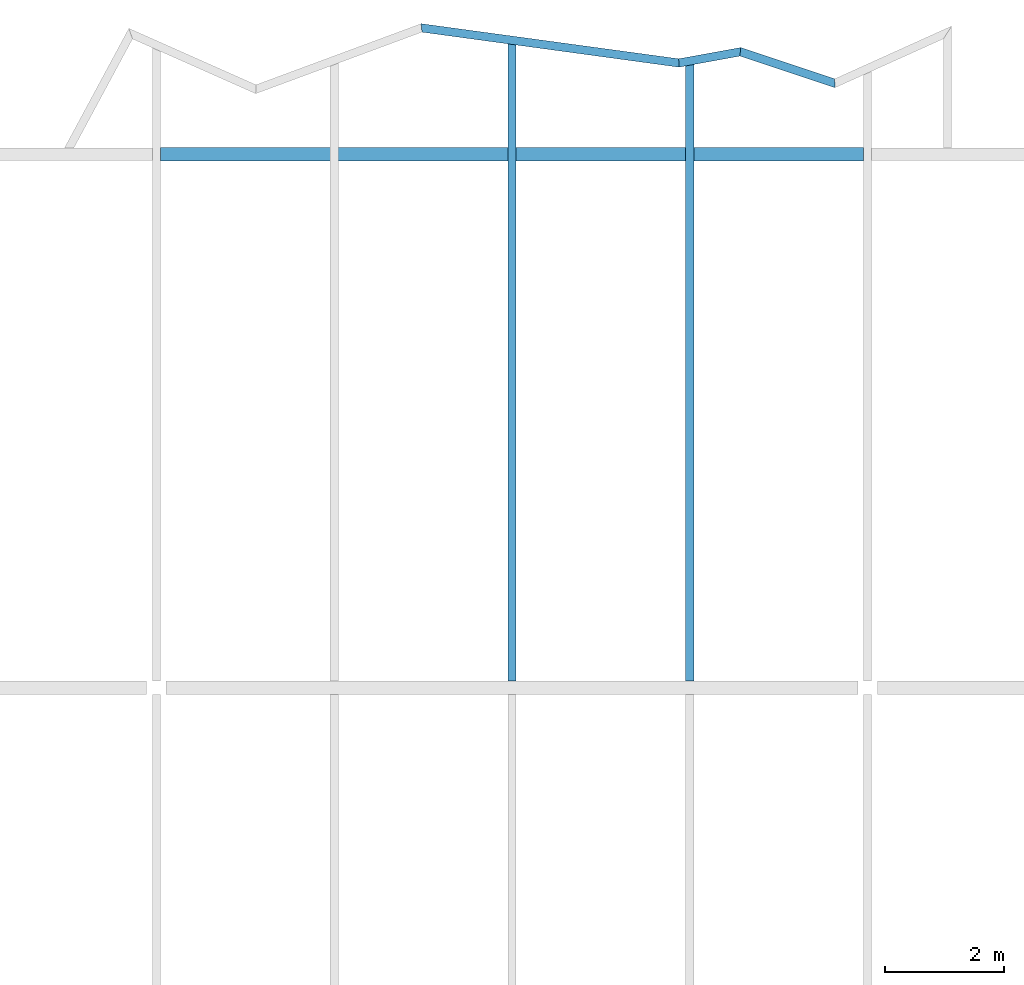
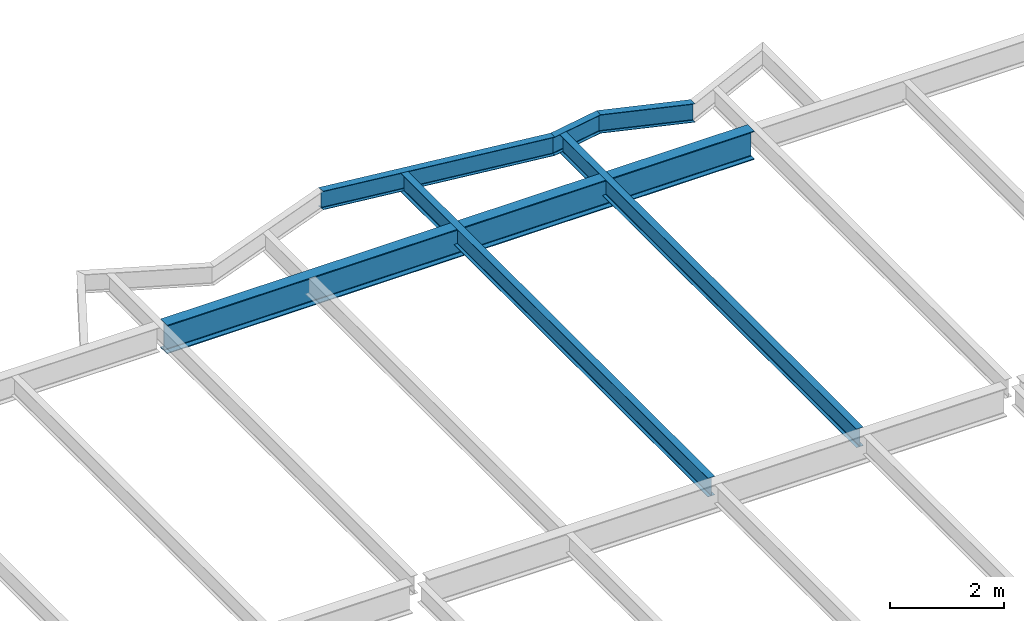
# One storey, part 13 of 26: 6 beams.
"""IFC2X3 building model written with IfcOpenShell, lengths in millimetres."""

import ifcopenshell
import ifcopenshell.guid

model = None  # the IFC model being written
_history = None  # IfcOwnerHistory: only IFC2X3 demands one
_inside = {}  # id of a spatial element -> (the spatial element, [elements in it])
_under = {}  # id of a project, library or spatial element -> (it, [spatial elements below it])
_declared = {}  # id of a project -> (the project, [libraries it declares])
_typed = {}  # id of a type object -> (the type object, [elements of that type])
_made_of = {}  # id of a material, layer set ... -> (it, [elements and type objects made of it])


def new_model(schema):
    """Start an empty IFC model of exactly this schema.

    Asked for "IFC4X3", IfcOpenShell would pick the latest addendum, in which some entities
    have other attributes; the version numbers below select the first issue.
    IFC2X3 requires an IfcOwnerHistory on every rooted entity: one is made here for all.
    """
    global model, _history
    if schema == "IFC4X3":
        model = ifcopenshell.file(schema_version=(4, 3, 0, 0))
    else:
        model = ifcopenshell.file(schema=schema)
    _inside.clear()
    _under.clear()
    _declared.clear()
    _typed.clear()
    _made_of.clear()
    _history = None
    if model.schema == "IFC2X3":
        org = make("IfcOrganization", Name="unknown")
        user = make(
            "IfcPersonAndOrganization",
            ThePerson=make("IfcPerson", FamilyName="unknown"),
            TheOrganization=org,
        )
        app = make(
            "IfcApplication",
            ApplicationDeveloper=org,
            Version="unknown",
            ApplicationFullName="unknown",
            ApplicationIdentifier="unknown",
        )
        _history = make(
            "IfcOwnerHistory",
            OwningUser=user,
            OwningApplication=app,
            ChangeAction="ADDED",
            CreationDate=0,
        )
    return model


def make(cls, **values):
    """One entity of the class cls with the attributes given. An attribute that is None is left unset."""
    return model.create_entity(
        cls, **{name: value for name, value in values.items() if value is not None}
    )


def rooted(cls, **values):
    """An entity with a GlobalId (a new one), such as an element, a storey or a relation."""
    return make(cls, GlobalId=ifcopenshell.guid.new(), OwnerHistory=_history, **values)


def si_unit(unit_type, name, prefix=None):
    """IfcSIUnit, for example si_unit("LENGTHUNIT", "METRE", prefix="MILLI")."""
    return make("IfcSIUnit", UnitType=unit_type, Prefix=prefix, Name=name)


def assignment(units):
    """IfcUnitAssignment: the units of a project."""
    return None if units is None else make("IfcUnitAssignment", Units=units)


def point(xyz):
    """IfcCartesianPoint."""
    return None if xyz is None else make("IfcCartesianPoint", Coordinates=xyz)


def direction(xyz):
    """IfcDirection."""
    return None if xyz is None else make("IfcDirection", DirectionRatios=xyz)


def frame(location, z_axis=None, x_axis=None):
    """IfcAxis2Placement3D, a coordinate frame: its origin and axes. An axis left out is left unset."""
    return make(
        "IfcAxis2Placement3D",
        Location=point(location),
        Axis=direction(z_axis),
        RefDirection=direction(x_axis),
    )


def origin():
    """The frame at (0, 0, 0) with its axes left unset."""
    return frame((0.0, 0.0, 0.0))


def place(relative_to, where):
    """IfcLocalPlacement: puts the frame where relative to a parent placement (None: the world)."""
    return make(
        "IfcLocalPlacement", PlacementRelTo=relative_to, RelativePlacement=where
    )


def context(
    kind, dimensions, precision=None, world=None, true_north=None, identifier=None
):
    """IfcGeometricRepresentationContext, for example the 3D "Model" context."""
    return make(
        "IfcGeometricRepresentationContext",
        ContextIdentifier=identifier,
        ContextType=kind,
        CoordinateSpaceDimension=dimensions,
        Precision=precision,
        WorldCoordinateSystem=world,
        TrueNorth=true_north,
    )


def project(units=None, contexts=None):
    """IfcProject with its units and contexts."""
    return rooted(
        "IfcProject",
        Name="project",
        RepresentationContexts=contexts,
        UnitsInContext=assignment(units),
    )


def spatial(cls, under=None, at=None, **own):
    """A site, building, storey or space (cls), placed at a placement, below another one or the project."""
    s = rooted(cls, ObjectPlacement=at, **own)
    if under is not None:
        _under.setdefault(under.id(), (under, []))[1].append(s)
    return s


def faces_of(points, faces, orient=None, outer=None):
    """IfcFace entities. A face is a list of loops; a loop is a list of indices into points, from 0.

    orient and outer hold one flag for each loop. By default every Orientation is true, the
    first loop of a face is its IfcFaceOuterBound and the others are IfcFaceBound.
    """
    made = []
    for i, loops in enumerate(faces):
        bounds = []
        for j, loop in enumerate(loops):
            is_outer = j == 0 if outer is None else outer[i][j]
            bounds.append(
                make(
                    "IfcFaceOuterBound" if is_outer else "IfcFaceBound",
                    Bound=make("IfcPolyLoop", Polygon=[points[k] for k in loop]),
                    Orientation=True if orient is None else orient[i][j],
                )
            )
        made.append(make("IfcFace", Bounds=bounds))
    return made


def faceted_brep(points, faces, orient=None, outer=None, voids=None):
    """IfcFacetedBrep: a solid bounded by flat faces; with voids (closed shells), ...WithVoids."""
    shared = [point(p) for p in points]
    hull = make("IfcClosedShell", CfsFaces=faces_of(shared, faces, orient, outer))
    if voids is None:
        return make("IfcFacetedBrep", Outer=hull)
    return make(
        "IfcFacetedBrepWithVoids",
        Outer=hull,
        Voids=[
            make(cls, CfsFaces=faces_of(shared, fs, o, b)) for cls, fs, o, b in voids
        ],
    )


def shape(context_of_items, identifier, shape_type, items):
    """IfcShapeRepresentation: the items that make up one representation, for example the "Body"."""
    return make(
        "IfcShapeRepresentation",
        ContextOfItems=context_of_items,
        RepresentationIdentifier=identifier,
        RepresentationType=shape_type,
        Items=items,
    )


def material(Name=None, Category=None):
    """IfcMaterial."""
    return make("IfcMaterial", Name=Name, Category=Category)


def made_of(thing, what):
    """Note that an element or type object is made of a material, layer set ...; save() writes the relation."""
    if what is not None:
        _made_of.setdefault(what.id(), (what, []))[1].append(thing)
    return thing


def element(
    cls,
    number,
    at=None,
    inside=None,
    cuts=None,
    type_object=None,
    material=None,
    context=None,
    identifier="Body",
    shape_type=None,
    held_by="IfcProductDefinitionShape",
    body=None,
    shapes=None,
    **own,
):
    """One element of the class cls, such as IfcWall. Its Tag is "e" and its number.

    at: its placement. inside: the storey or other place that contains it. cuts: it is an
    opening in that element (IfcRelVoidsElement). A single representation is given by context,
    identifier, shape_type and body (its items); several are given by shapes. held_by: the class
    of the entity that holds the representations. save() writes the other relations.
    """
    e = rooted(cls, Tag="e%d" % number, ObjectPlacement=at, **own)
    if body is not None:
        shapes = [shape(context, identifier, shape_type, body)]
    if shapes is not None:
        e.Representation = make(held_by, Representations=shapes)
    if inside is not None:
        _inside.setdefault(inside.id(), (inside, []))[1].append(e)
    if cuts is not None:
        rooted(
            "IfcRelVoidsElement", RelatingBuildingElement=cuts, RelatedOpeningElement=e
        )
    if type_object is not None:
        _typed.setdefault(type_object.id(), (type_object, []))[1].append(e)
    return made_of(e, material)


def aggregate(whole, parts):
    """IfcRelAggregates: a whole, such as a stair, and the parts it consists of."""
    return rooted("IfcRelAggregates", RelatingObject=whole, RelatedObjects=parts)


def save(model, path):
    """Write the relations noted so far, then the file.

    IfcRelAggregates (storeys below a building ...), IfcRelContainedInSpatialStructure (elements
    in a storey), IfcRelDefinesByType, IfcRelAssociatesMaterial and IfcRelDeclares: one each for
    every whole, place, type object, material and project.
    """
    for whole, parts in _under.values():
        aggregate(whole, parts)
    for where, things in _inside.values():
        rooted(
            "IfcRelContainedInSpatialStructure",
            RelatedElements=things,
            RelatingStructure=where,
        )
    for kind, things in _typed.values():
        rooted("IfcRelDefinesByType", RelatedObjects=things, RelatingType=kind)
    for what, things in _made_of.values():
        rooted("IfcRelAssociatesMaterial", RelatedObjects=things, RelatingMaterial=what)
    for by, libraries in _declared.values():
        rooted("IfcRelDeclares", RelatingContext=by, RelatedDefinitions=libraries)
    model.write(path)


model = new_model("IFC2X3")

# Units and contexts
context_of_model = context(None, 3, precision=1e-05, world=origin())
ifc_project = project(units=[si_unit("LENGTHUNIT", "METRE", prefix="MILLI")], contexts=[context_of_model])

# Building, storey
building = spatial("IfcBuilding", under=ifc_project, Name="Building", CompositionType="ELEMENT")
storey = spatial("IfcBuildingStorey", under=building, Name="FL4-FRM", CompositionType="ELEMENT")

# Beams
ifc_material_1 = material(Name="A992")
beam_1_placement = place(None, origin())
element("IfcBeam", 1, at=beam_1_placement, inside=storey, material=ifc_material_1, Name="Column355", context=context_of_model, shape_type="Brep", body=[
    faceted_brep([(-23930.0, 35885.5, 12761.0), (-23930.0, 36114.5, 12761.0), (-12070.0, 36114.5, 12761.0), (-12070.0, 35885.5, 12761.0), (-23930.0, 36114.5, 12780.6), (-12070.0, 36114.5, 12780.6), (-23930.0, 36018.6, 12780.6), (-12070.0, 36018.6, 12780.6), (-23930.0, 36015.4, 12781.0), (-12070.0, 36015.4, 12781.0), (-23930.0, 36012.3, 12782.3), (-12070.0, 36012.3, 12782.3), (-23930.0, 36009.7, 12784.3), (-12070.0, 36009.7, 12784.3), (-23930.0, 36007.7, 12787.0), (-12070.0, 36007.7, 12787.0), (-23930.0, 36006.4, 12790.0), (-12070.0, 36006.4, 12790.0), (-23930.0, 36005.9, 12793.3), (-12070.0, 36005.9, 12793.3), (-23930.0, 36005.9, 13340.7), (-12070.0, 36005.9, 13340.7), (-23930.0, 36006.4, 13344.0), (-12070.0, 36006.4, 13344.0), (-23930.0, 36007.7, 13347.0), (-12070.0, 36007.7, 13347.0), (-23930.0, 36009.7, 13349.7), (-12070.0, 36009.7, 13349.7), (-23930.0, 36012.3, 13351.7), (-12070.0, 36012.3, 13351.7), (-23930.0, 36015.4, 13353.0), (-12070.0, 36015.4, 13353.0), (-23930.0, 36018.6, 13353.4), (-12070.0, 36018.6, 13353.4), (-23930.0, 36114.5, 13353.4), (-12070.0, 36114.5, 13353.4), (-23930.0, 36114.5, 13373.0), (-12070.0, 36114.5, 13373.0), (-23930.0, 35885.5, 13373.0), (-12070.0, 35885.5, 13373.0), (-23930.0, 35885.5, 13353.4), (-12070.0, 35885.5, 13353.4), (-23930.0, 35981.4, 13353.4), (-12070.0, 35981.4, 13353.4), (-23930.0, 35984.6, 13353.0), (-12070.0, 35984.6, 13353.0), (-23930.0, 35987.7, 13351.7), (-12070.0, 35987.7, 13351.7), (-23930.0, 35990.3, 13349.7), (-12070.0, 35990.3, 13349.7), (-23930.0, 35992.3, 13347.0), (-12070.0, 35992.3, 13347.0), (-23930.0, 35993.6, 13344.0), (-12070.0, 35993.6, 13344.0), (-23930.0, 35994.1, 13340.7), (-12070.0, 35994.1, 13340.7), (-23930.0, 35994.1, 12793.3), (-12070.0, 35994.1, 12793.3), (-23930.0, 35993.6, 12790.0), (-12070.0, 35993.6, 12790.0), (-23930.0, 35992.3, 12787.0), (-12070.0, 35992.3, 12787.0), (-23930.0, 35990.3, 12784.3), (-12070.0, 35990.3, 12784.3), (-23930.0, 35987.7, 12782.3), (-12070.0, 35987.7, 12782.3), (-23930.0, 35984.6, 12781.0), (-12070.0, 35984.6, 12781.0), (-23930.0, 35981.4, 12780.6), (-12070.0, 35981.4, 12780.6), (-23930.0, 35885.5, 12780.6), (-12070.0, 35885.5, 12780.6)], [[[0, 1, 2, 3]], [[1, 4, 5, 2]], [[4, 6, 7, 5]], [[6, 8, 9, 7]], [[8, 10, 11, 9]], [[10, 12, 13, 11]], [[12, 14, 15, 13]], [[14, 16, 17, 15]], [[16, 18, 19, 17]], [[18, 20, 21, 19]], [[20, 22, 23, 21]], [[22, 24, 25, 23]], [[24, 26, 27, 25]], [[26, 28, 29, 27]], [[28, 30, 31, 29]], [[30, 32, 33, 31]], [[32, 34, 35, 33]], [[34, 36, 37, 35]], [[36, 38, 39, 37]], [[38, 40, 41, 39]], [[40, 42, 43, 41]], [[42, 44, 45, 43]], [[44, 46, 47, 45]], [[46, 48, 49, 47]], [[48, 50, 51, 49]], [[50, 52, 53, 51]], [[52, 54, 55, 53]], [[54, 56, 57, 55]], [[56, 58, 59, 57]], [[58, 60, 61, 59]], [[60, 62, 63, 61]], [[62, 64, 65, 63]], [[64, 66, 67, 65]], [[66, 68, 69, 67]], [[68, 70, 71, 69]], [[70, 0, 3, 71]], [[0, 70, 68, 66, 64, 62, 60, 58, 56, 54, 52, 50, 48, 46, 44, 42, 40, 38, 36, 34, 32, 30, 28, 26, 24, 22, 20, 18, 16, 14, 12, 10, 8, 6, 4, 1]], [[3, 2, 5, 7, 9, 11, 13, 15, 17, 19, 21, 23, 25, 27, 29, 31, 33, 35, 37, 39, 41, 43, 45, 47, 49, 51, 53, 55, 57, 59, 61, 63, 65, 67, 69, 71]]]),
])
ifc_material_2 = material(Name="A992")
beam_2_placement = place(None, origin())
element("IfcBeam", 2, at=beam_2_placement, inside=storey, material=ifc_material_2, Name="B982", context=context_of_model, shape_type="Brep", body=[
    faceted_brep([(-15070.0, 37491.8, 12974.0), (-14930.0, 37517.3, 12974.0), (-14930.0, 27114.5, 12974.0), (-15070.0, 27114.5, 12974.0), (-14930.0, 37517.3, 12982.8), (-14930.0, 27114.5, 12982.8), (-14986.6, 37507.0, 12982.8), (-14986.6, 27114.5, 12982.8), (-14988.1, 37506.7, 12982.9), (-14988.1, 27114.5, 12982.9), (-14989.5, 37506.5, 12983.2), (-14989.5, 27114.5, 12983.2), (-14990.8, 37506.2, 12983.7), (-14990.8, 27114.5, 12983.7), (-14992.1, 37506.0, 12984.4), (-14992.1, 27114.5, 12984.4), (-14993.3, 37505.8, 12985.3), (-14993.3, 27114.5, 12985.3), (-14994.3, 37505.6, 12986.3), (-14994.3, 27114.5, 12986.3), (-14995.2, 37505.4, 12987.5), (-14995.2, 27114.5, 12987.5), (-14995.9, 37505.3, 12988.8), (-14995.9, 27114.5, 12988.8), (-14996.4, 37505.2, 12990.1), (-14996.4, 27114.5, 12990.1), (-14996.7, 37505.2, 12991.5), (-14996.7, 27114.5, 12991.5), (-14996.8, 37505.1, 12993.0), (-14996.8, 27114.5, 12993.0), (-14996.8, 37505.1, 13354.0), (-14996.8, 27114.5, 13354.0), (-14996.7, 37505.2, 13355.5), (-14996.7, 27114.5, 13355.5), (-14996.4, 37505.2, 13356.9), (-14996.4, 27114.5, 13356.9), (-14995.9, 37505.3, 13358.2), (-14995.9, 27114.5, 13358.2), (-14995.2, 37505.4, 13359.5), (-14995.2, 27114.5, 13359.5), (-14994.3, 37505.6, 13360.7), (-14994.3, 27114.5, 13360.7), (-14993.3, 37505.8, 13361.7), (-14993.3, 27114.5, 13361.7), (-14992.1, 37506.0, 13362.6), (-14992.1, 27114.5, 13362.6), (-14990.8, 37506.2, 13363.3), (-14990.8, 27114.5, 13363.3), (-14989.5, 37506.5, 13363.8), (-14989.5, 27114.5, 13363.8), (-14988.1, 37506.7, 13364.1), (-14988.1, 27114.5, 13364.1), (-14986.6, 37507.0, 13364.2), (-14986.6, 27114.5, 13364.2), (-14930.0, 37517.3, 13364.2), (-14930.0, 27114.5, 13364.2), (-14930.0, 37517.3, 13373.0), (-14930.0, 27114.5, 13373.0), (-15070.0, 37491.8, 13373.0), (-15070.0, 27114.5, 13373.0), (-15070.0, 37491.8, 13364.2), (-15070.0, 27114.5, 13364.2), (-15013.4, 37502.1, 13364.2), (-15013.4, 27114.5, 13364.2), (-15011.9, 37502.4, 13364.1), (-15011.9, 27114.5, 13364.1), (-15010.5, 37502.6, 13363.8), (-15010.5, 27114.5, 13363.8), (-15009.2, 37502.9, 13363.3), (-15009.2, 27114.5, 13363.3), (-15007.9, 37503.1, 13362.6), (-15007.9, 27114.5, 13362.6), (-15006.7, 37503.3, 13361.7), (-15006.7, 27114.5, 13361.7), (-15005.7, 37503.5, 13360.7), (-15005.7, 27114.5, 13360.7), (-15004.8, 37503.7, 13359.5), (-15004.8, 27114.5, 13359.5), (-15004.1, 37503.8, 13358.2), (-15004.1, 27114.5, 13358.2), (-15003.6, 37503.9, 13356.9), (-15003.6, 27114.5, 13356.9), (-15003.3, 37504.0, 13355.5), (-15003.3, 27114.5, 13355.5), (-15003.2, 37504.0, 13354.0), (-15003.2, 27114.5, 13354.0), (-15003.2, 37504.0, 12993.0), (-15003.2, 27114.5, 12993.0), (-15003.3, 37504.0, 12991.5), (-15003.3, 27114.5, 12991.5), (-15003.6, 37503.9, 12990.1), (-15003.6, 27114.5, 12990.1), (-15004.1, 37503.8, 12988.8), (-15004.1, 27114.5, 12988.8), (-15004.8, 37503.7, 12987.5), (-15004.8, 27114.5, 12987.5), (-15005.7, 37503.5, 12986.3), (-15005.7, 27114.5, 12986.3), (-15006.7, 37503.3, 12985.3), (-15006.7, 27114.5, 12985.3), (-15007.9, 37503.1, 12984.4), (-15007.9, 27114.5, 12984.4), (-15009.2, 37502.9, 12983.7), (-15009.2, 27114.5, 12983.7), (-15010.5, 37502.6, 12983.2), (-15010.5, 27114.5, 12983.2), (-15011.9, 37502.4, 12982.9), (-15011.9, 27114.5, 12982.9), (-15013.4, 37502.1, 12982.8), (-15013.4, 27114.5, 12982.8), (-15070.0, 37491.8, 12982.8), (-15070.0, 27114.5, 12982.8)], [[[0, 1, 2, 3]], [[1, 4, 5, 2]], [[4, 6, 7, 5]], [[6, 8, 9, 7]], [[8, 10, 11, 9]], [[10, 12, 13, 11]], [[12, 14, 15, 13]], [[14, 16, 17, 15]], [[16, 18, 19, 17]], [[18, 20, 21, 19]], [[20, 22, 23, 21]], [[22, 24, 25, 23]], [[24, 26, 27, 25]], [[26, 28, 29, 27]], [[28, 30, 31, 29]], [[30, 32, 33, 31]], [[32, 34, 35, 33]], [[34, 36, 37, 35]], [[36, 38, 39, 37]], [[38, 40, 41, 39]], [[40, 42, 43, 41]], [[42, 44, 45, 43]], [[44, 46, 47, 45]], [[46, 48, 49, 47]], [[48, 50, 51, 49]], [[50, 52, 53, 51]], [[52, 54, 55, 53]], [[54, 56, 57, 55]], [[56, 58, 59, 57]], [[58, 60, 61, 59]], [[60, 62, 63, 61]], [[62, 64, 65, 63]], [[64, 66, 67, 65]], [[66, 68, 69, 67]], [[68, 70, 71, 69]], [[70, 72, 73, 71]], [[72, 74, 75, 73]], [[74, 76, 77, 75]], [[76, 78, 79, 77]], [[78, 80, 81, 79]], [[80, 82, 83, 81]], [[82, 84, 85, 83]], [[84, 86, 87, 85]], [[86, 88, 89, 87]], [[88, 90, 91, 89]], [[90, 92, 93, 91]], [[92, 94, 95, 93]], [[94, 96, 97, 95]], [[96, 98, 99, 97]], [[98, 100, 101, 99]], [[100, 102, 103, 101]], [[102, 104, 105, 103]], [[104, 106, 107, 105]], [[106, 108, 109, 107]], [[108, 110, 111, 109]], [[110, 0, 3, 111]], [[0, 110, 108, 106, 104, 102, 100, 98, 96, 94, 92, 90, 88, 86, 84, 82, 80, 78, 76, 74, 72, 70, 68, 66, 64, 62, 60, 58, 56, 54, 52, 50, 48, 46, 44, 42, 40, 38, 36, 34, 32, 30, 28, 26, 24, 22, 20, 18, 16, 14, 12, 10, 8, 6, 4, 1]], [[3, 2, 5, 7, 9, 11, 13, 15, 17, 19, 21, 23, 25, 27, 29, 31, 33, 35, 37, 39, 41, 43, 45, 47, 49, 51, 53, 55, 57, 59, 61, 63, 65, 67, 69, 71, 73, 75, 77, 79, 81, 83, 85, 87, 89, 91, 93, 95, 97, 99, 101, 103, 105, 107, 109, 111]]]),
])
ifc_material_3 = material(Name="A992")
beam_3_placement = place(None, origin())
element("IfcBeam", 3, at=beam_3_placement, inside=storey, material=ifc_material_3, Name="B983", context=context_of_model, shape_type="Brep", body=[
    faceted_brep([(-14152.7, 37658.6, 12974.0), (-14142.4, 37802.8, 12974.0), (-12556.6, 37274.1, 12974.0), (-12548.9, 37124.0, 12974.0), (-14142.4, 37802.8, 12982.8), (-12556.6, 37274.1, 12982.8), (-14146.6, 37744.5, 12982.8), (-12553.5, 37213.4, 12982.8), (-14146.7, 37743.0, 12982.9), (-12553.4, 37211.9, 12982.9), (-14146.8, 37741.5, 12983.2), (-12553.3, 37210.4, 12983.2), (-14146.9, 37740.1, 12983.7), (-12553.2, 37208.9, 12983.7), (-14147.0, 37738.8, 12984.4), (-12553.1, 37207.5, 12984.4), (-14147.1, 37737.6, 12985.3), (-12553.1, 37206.3, 12985.3), (-14147.1, 37736.6, 12986.3), (-12553.0, 37205.2, 12986.3), (-14147.2, 37735.7, 12987.5), (-12553.0, 37204.3, 12987.5), (-14147.3, 37734.9, 12988.8), (-12552.9, 37203.5, 12988.8), (-14147.3, 37734.4, 12990.1), (-12552.9, 37203.0, 12990.1), (-14147.3, 37734.1, 12991.5), (-12552.9, 37202.6, 12991.5), (-14147.3, 37734.0, 12993.0), (-12552.9, 37202.5, 12993.0), (-14147.3, 37734.0, 13354.0), (-12552.9, 37202.5, 13354.0), (-14147.3, 37734.1, 13355.5), (-12552.9, 37202.6, 13355.5), (-14147.3, 37734.4, 13356.9), (-12552.9, 37203.0, 13356.9), (-14147.3, 37734.9, 13358.2), (-12552.9, 37203.5, 13358.2), (-14147.2, 37735.7, 13359.5), (-12553.0, 37204.3, 13359.5), (-14147.1, 37736.6, 13360.7), (-12553.0, 37205.2, 13360.7), (-14147.1, 37737.6, 13361.7), (-12553.1, 37206.3, 13361.7), (-14147.0, 37738.8, 13362.6), (-12553.1, 37207.5, 13362.6), (-14146.9, 37740.1, 13363.3), (-12553.2, 37208.9, 13363.3), (-14146.8, 37741.5, 13363.8), (-12553.3, 37210.4, 13363.8), (-14146.7, 37743.0, 13364.1), (-12553.4, 37211.9, 13364.1), (-14146.6, 37744.5, 13364.2), (-12553.5, 37213.4, 13364.2), (-14142.4, 37802.8, 13364.2), (-12556.6, 37274.1, 13364.2), (-14142.4, 37802.8, 13373.0), (-12556.6, 37274.1, 13373.0), (-14152.7, 37658.6, 13373.0), (-12548.9, 37124.0, 13373.0), (-14152.7, 37658.6, 13364.2), (-12548.9, 37124.0, 13364.2), (-14148.5, 37716.9, 13364.2), (-12552.0, 37184.7, 13364.2), (-14148.4, 37718.4, 13364.1), (-12552.1, 37186.3, 13364.1), (-14148.3, 37719.9, 13363.8), (-12552.1, 37187.8, 13363.8), (-14148.2, 37721.3, 13363.3), (-12552.2, 37189.2, 13363.3), (-14148.1, 37722.6, 13362.6), (-12552.3, 37190.6, 13362.6), (-14148.1, 37723.8, 13361.7), (-12552.3, 37191.9, 13361.7), (-14148.0, 37724.8, 13360.7), (-12552.4, 37193.0, 13360.7), (-14147.9, 37725.7, 13359.5), (-12552.4, 37193.9, 13359.5), (-14147.9, 37726.5, 13358.2), (-12552.5, 37194.7, 13358.2), (-14147.8, 37727.0, 13356.9), (-12552.5, 37195.2, 13356.9), (-14147.8, 37727.3, 13355.5), (-12552.5, 37195.5, 13355.5), (-14147.8, 37727.4, 13354.0), (-12552.5, 37195.6, 13354.0), (-14147.8, 37727.4, 12993.0), (-12552.5, 37195.6, 12993.0), (-14147.8, 37727.3, 12991.5), (-12552.5, 37195.5, 12991.5), (-14147.8, 37727.0, 12990.1), (-12552.5, 37195.2, 12990.1), (-14147.9, 37726.5, 12988.8), (-12552.5, 37194.7, 12988.8), (-14147.9, 37725.7, 12987.5), (-12552.4, 37193.9, 12987.5), (-14148.0, 37724.8, 12986.3), (-12552.4, 37193.0, 12986.3), (-14148.1, 37723.8, 12985.3), (-12552.3, 37191.9, 12985.3), (-14148.1, 37722.6, 12984.4), (-12552.3, 37190.6, 12984.4), (-14148.2, 37721.3, 12983.7), (-12552.2, 37189.2, 12983.7), (-14148.3, 37719.9, 12983.2), (-12552.1, 37187.8, 12983.2), (-14148.4, 37718.4, 12982.9), (-12552.1, 37186.3, 12982.9), (-14148.5, 37716.9, 12982.8), (-12552.0, 37184.7, 12982.8), (-14152.7, 37658.6, 12982.8), (-12548.9, 37124.0, 12982.8)], [[[0, 1, 2, 3]], [[1, 4, 5, 2]], [[4, 6, 7, 5]], [[6, 8, 9, 7]], [[8, 10, 11, 9]], [[10, 12, 13, 11]], [[12, 14, 15, 13]], [[14, 16, 17, 15]], [[16, 18, 19, 17]], [[18, 20, 21, 19]], [[20, 22, 23, 21]], [[22, 24, 25, 23]], [[24, 26, 27, 25]], [[26, 28, 29, 27]], [[28, 30, 31, 29]], [[30, 32, 33, 31]], [[32, 34, 35, 33]], [[34, 36, 37, 35]], [[36, 38, 39, 37]], [[38, 40, 41, 39]], [[40, 42, 43, 41]], [[42, 44, 45, 43]], [[44, 46, 47, 45]], [[46, 48, 49, 47]], [[48, 50, 51, 49]], [[50, 52, 53, 51]], [[52, 54, 55, 53]], [[54, 56, 57, 55]], [[56, 58, 59, 57]], [[58, 60, 61, 59]], [[60, 62, 63, 61]], [[62, 64, 65, 63]], [[64, 66, 67, 65]], [[66, 68, 69, 67]], [[68, 70, 71, 69]], [[70, 72, 73, 71]], [[72, 74, 75, 73]], [[74, 76, 77, 75]], [[76, 78, 79, 77]], [[78, 80, 81, 79]], [[80, 82, 83, 81]], [[82, 84, 85, 83]], [[84, 86, 87, 85]], [[86, 88, 89, 87]], [[88, 90, 91, 89]], [[90, 92, 93, 91]], [[92, 94, 95, 93]], [[94, 96, 97, 95]], [[96, 98, 99, 97]], [[98, 100, 101, 99]], [[100, 102, 103, 101]], [[102, 104, 105, 103]], [[104, 106, 107, 105]], [[106, 108, 109, 107]], [[108, 110, 111, 109]], [[110, 0, 3, 111]], [[0, 110, 108, 106, 104, 102, 100, 98, 96, 94, 92, 90, 88, 86, 84, 82, 80, 78, 76, 74, 72, 70, 68, 66, 64, 62, 60, 58, 56, 54, 52, 50, 48, 46, 44, 42, 40, 38, 36, 34, 32, 30, 28, 26, 24, 22, 20, 18, 16, 14, 12, 10, 8, 6, 4, 1]], [[3, 2, 5, 7, 9, 11, 13, 15, 17, 19, 21, 23, 25, 27, 29, 31, 33, 35, 37, 39, 41, 43, 45, 47, 49, 51, 53, 55, 57, 59, 61, 63, 65, 67, 69, 71, 73, 75, 77, 79, 81, 83, 85, 87, 89, 91, 93, 95, 97, 99, 101, 103, 105, 107, 109, 111]]]),
])
ifc_material_4 = material(Name="A992")
beam_4_placement = place(None, origin())
element("IfcBeam", 4, at=beam_4_placement, inside=storey, material=ifc_material_4, Name="B984", context=context_of_model, shape_type="Brep", body=[
    faceted_brep([(-15183.8, 37471.1, 12974.0), (-15187.0, 37612.9, 12974.0), (-14142.4, 37802.8, 12974.0), (-14152.7, 37658.6, 12974.0), (-15187.0, 37612.9, 12982.8), (-14142.4, 37802.8, 12982.8), (-15185.7, 37555.6, 12982.8), (-14146.6, 37744.5, 12982.8), (-15185.7, 37554.1, 12982.9), (-14146.7, 37743.0, 12982.9), (-15185.7, 37552.7, 12983.2), (-14146.8, 37741.5, 12983.2), (-15185.6, 37551.3, 12983.7), (-14146.9, 37740.1, 12983.7), (-15185.6, 37550.0, 12984.4), (-14147.0, 37738.8, 12984.4), (-15185.6, 37548.8, 12985.3), (-14147.1, 37737.6, 12985.3), (-15185.5, 37547.8, 12986.3), (-14147.1, 37736.6, 12986.3), (-15185.5, 37546.9, 12987.5), (-14147.2, 37735.7, 12987.5), (-15185.5, 37546.2, 12988.8), (-14147.3, 37734.9, 12988.8), (-15185.5, 37545.7, 12990.1), (-14147.3, 37734.4, 12990.1), (-15185.5, 37545.3, 12991.5), (-14147.3, 37734.1, 12991.5), (-15185.5, 37545.2, 12993.0), (-14147.3, 37734.0, 12993.0), (-15185.5, 37545.2, 13354.0), (-14147.3, 37734.0, 13354.0), (-15185.5, 37545.3, 13355.5), (-14147.3, 37734.1, 13355.5), (-15185.5, 37545.7, 13356.9), (-14147.3, 37734.4, 13356.9), (-15185.5, 37546.2, 13358.2), (-14147.3, 37734.9, 13358.2), (-15185.5, 37546.9, 13359.5), (-14147.2, 37735.7, 13359.5), (-15185.5, 37547.8, 13360.7), (-14147.1, 37736.6, 13360.7), (-15185.6, 37548.8, 13361.7), (-14147.1, 37737.6, 13361.7), (-15185.6, 37550.0, 13362.6), (-14147.0, 37738.8, 13362.6), (-15185.6, 37551.3, 13363.3), (-14146.9, 37740.1, 13363.3), (-15185.7, 37552.7, 13363.8), (-14146.8, 37741.5, 13363.8), (-15185.7, 37554.1, 13364.1), (-14146.7, 37743.0, 13364.1), (-15185.7, 37555.6, 13364.2), (-14146.6, 37744.5, 13364.2), (-15187.0, 37612.9, 13364.2), (-14142.4, 37802.8, 13364.2), (-15187.0, 37612.9, 13373.0), (-14142.4, 37802.8, 13373.0), (-15183.8, 37471.1, 13373.0), (-14152.7, 37658.6, 13373.0), (-15183.8, 37471.1, 13364.2), (-14152.7, 37658.6, 13364.2), (-15185.1, 37528.4, 13364.2), (-14148.5, 37716.9, 13364.2), (-15185.1, 37529.9, 13364.1), (-14148.4, 37718.4, 13364.1), (-15185.2, 37531.3, 13363.8), (-14148.3, 37719.9, 13363.8), (-15185.2, 37532.7, 13363.3), (-14148.2, 37721.3, 13363.3), (-15185.2, 37534.0, 13362.6), (-14148.1, 37722.6, 13362.6), (-15185.3, 37535.2, 13361.7), (-14148.1, 37723.8, 13361.7), (-15185.3, 37536.2, 13360.7), (-14148.0, 37724.8, 13360.7), (-15185.3, 37537.1, 13359.5), (-14147.9, 37725.7, 13359.5), (-15185.3, 37537.8, 13358.2), (-14147.9, 37726.5, 13358.2), (-15185.3, 37538.3, 13356.9), (-14147.8, 37727.0, 13356.9), (-15185.3, 37538.6, 13355.5), (-14147.8, 37727.3, 13355.5), (-15185.3, 37538.8, 13354.0), (-14147.8, 37727.4, 13354.0), (-15185.3, 37538.8, 12993.0), (-14147.8, 37727.4, 12993.0), (-15185.3, 37538.6, 12991.5), (-14147.8, 37727.3, 12991.5), (-15185.3, 37538.3, 12990.1), (-14147.8, 37727.0, 12990.1), (-15185.3, 37537.8, 12988.8), (-14147.9, 37726.5, 12988.8), (-15185.3, 37537.1, 12987.5), (-14147.9, 37725.7, 12987.5), (-15185.3, 37536.2, 12986.3), (-14148.0, 37724.8, 12986.3), (-15185.3, 37535.2, 12985.3), (-14148.1, 37723.8, 12985.3), (-15185.2, 37534.0, 12984.4), (-14148.1, 37722.6, 12984.4), (-15185.2, 37532.7, 12983.7), (-14148.2, 37721.3, 12983.7), (-15185.2, 37531.3, 12983.2), (-14148.3, 37719.9, 12983.2), (-15185.1, 37529.9, 12982.9), (-14148.4, 37718.4, 12982.9), (-15185.1, 37528.4, 12982.8), (-14148.5, 37716.9, 12982.8), (-15183.8, 37471.1, 12982.8), (-14152.7, 37658.6, 12982.8)], [[[0, 1, 2, 3]], [[1, 4, 5, 2]], [[4, 6, 7, 5]], [[6, 8, 9, 7]], [[8, 10, 11, 9]], [[10, 12, 13, 11]], [[12, 14, 15, 13]], [[14, 16, 17, 15]], [[16, 18, 19, 17]], [[18, 20, 21, 19]], [[20, 22, 23, 21]], [[22, 24, 25, 23]], [[24, 26, 27, 25]], [[26, 28, 29, 27]], [[28, 30, 31, 29]], [[30, 32, 33, 31]], [[32, 34, 35, 33]], [[34, 36, 37, 35]], [[36, 38, 39, 37]], [[38, 40, 41, 39]], [[40, 42, 43, 41]], [[42, 44, 45, 43]], [[44, 46, 47, 45]], [[46, 48, 49, 47]], [[48, 50, 51, 49]], [[50, 52, 53, 51]], [[52, 54, 55, 53]], [[54, 56, 57, 55]], [[56, 58, 59, 57]], [[58, 60, 61, 59]], [[60, 62, 63, 61]], [[62, 64, 65, 63]], [[64, 66, 67, 65]], [[66, 68, 69, 67]], [[68, 70, 71, 69]], [[70, 72, 73, 71]], [[72, 74, 75, 73]], [[74, 76, 77, 75]], [[76, 78, 79, 77]], [[78, 80, 81, 79]], [[80, 82, 83, 81]], [[82, 84, 85, 83]], [[84, 86, 87, 85]], [[86, 88, 89, 87]], [[88, 90, 91, 89]], [[90, 92, 93, 91]], [[92, 94, 95, 93]], [[94, 96, 97, 95]], [[96, 98, 99, 97]], [[98, 100, 101, 99]], [[100, 102, 103, 101]], [[102, 104, 105, 103]], [[104, 106, 107, 105]], [[106, 108, 109, 107]], [[108, 110, 111, 109]], [[110, 0, 3, 111]], [[0, 110, 108, 106, 104, 102, 100, 98, 96, 94, 92, 90, 88, 86, 84, 82, 80, 78, 76, 74, 72, 70, 68, 66, 64, 62, 60, 58, 56, 54, 52, 50, 48, 46, 44, 42, 40, 38, 36, 34, 32, 30, 28, 26, 24, 22, 20, 18, 16, 14, 12, 10, 8, 6, 4, 1]], [[3, 2, 5, 7, 9, 11, 13, 15, 17, 19, 21, 23, 25, 27, 29, 31, 33, 35, 37, 39, 41, 43, 45, 47, 49, 51, 53, 55, 57, 59, 61, 63, 65, 67, 69, 71, 73, 75, 77, 79, 81, 83, 85, 87, 89, 91, 93, 95, 97, 99, 101, 103, 105, 107, 109, 111]]]),
])
ifc_material_5 = material(Name="A992")
beam_5_placement = place(None, origin())
element("IfcBeam", 5, at=beam_5_placement, inside=storey, material=ifc_material_5, Name="B985", context=context_of_model, shape_type="Brep", body=[
    faceted_brep([(-15187.0, 37612.9, 12974.0), (-15183.8, 37471.1, 12974.0), (-19518.8, 38062.3, 12974.0), (-19534.6, 38205.7, 12974.0), (-15183.8, 37471.1, 12982.8), (-19518.8, 38062.3, 12982.8), (-15185.1, 37528.4, 12982.8), (-19525.2, 38120.3, 12982.8), (-15185.1, 37529.9, 12982.9), (-19525.4, 38121.7, 12982.9), (-15185.2, 37531.3, 12983.2), (-19525.5, 38123.2, 12983.2), (-15185.2, 37532.7, 12983.7), (-19525.7, 38124.6, 12983.7), (-15185.2, 37534.0, 12984.4), (-19525.8, 38125.9, 12984.4), (-15185.3, 37535.2, 12985.3), (-19526.0, 38127.1, 12985.3), (-15185.3, 37536.2, 12986.3), (-19526.1, 38128.2, 12986.3), (-15185.3, 37537.1, 12987.5), (-19526.2, 38129.1, 12987.5), (-15185.3, 37537.8, 12988.8), (-19526.3, 38129.8, 12988.8), (-15185.3, 37538.3, 12990.1), (-19526.3, 38130.3, 12990.1), (-15185.3, 37538.6, 12991.5), (-19526.3, 38130.6, 12991.5), (-15185.3, 37538.8, 12993.0), (-19526.4, 38130.7, 12993.0), (-15185.3, 37538.8, 13354.0), (-19526.4, 38130.7, 13354.0), (-15185.3, 37538.6, 13355.5), (-19526.3, 38130.6, 13355.5), (-15185.3, 37538.3, 13356.9), (-19526.3, 38130.3, 13356.9), (-15185.3, 37537.8, 13358.2), (-19526.3, 38129.8, 13358.2), (-15185.3, 37537.1, 13359.5), (-19526.2, 38129.1, 13359.5), (-15185.3, 37536.2, 13360.7), (-19526.1, 38128.2, 13360.7), (-15185.3, 37535.2, 13361.7), (-19526.0, 38127.1, 13361.7), (-15185.2, 37534.0, 13362.6), (-19525.8, 38125.9, 13362.6), (-15185.2, 37532.7, 13363.3), (-19525.7, 38124.6, 13363.3), (-15185.2, 37531.3, 13363.8), (-19525.5, 38123.2, 13363.8), (-15185.1, 37529.9, 13364.1), (-19525.4, 38121.7, 13364.1), (-15185.1, 37528.4, 13364.2), (-19525.2, 38120.3, 13364.2), (-15183.8, 37471.1, 13364.2), (-19518.8, 38062.3, 13364.2), (-15183.8, 37471.1, 13373.0), (-19518.8, 38062.3, 13373.0), (-15187.0, 37612.9, 13373.0), (-19534.6, 38205.7, 13373.0), (-15187.0, 37612.9, 13364.2), (-19534.6, 38205.7, 13364.2), (-15185.7, 37555.6, 13364.2), (-19528.2, 38147.7, 13364.2), (-15185.7, 37554.1, 13364.1), (-19528.1, 38146.2, 13364.1), (-15185.7, 37552.7, 13363.8), (-19527.9, 38144.8, 13363.8), (-15185.6, 37551.3, 13363.3), (-19527.8, 38143.4, 13363.3), (-15185.6, 37550.0, 13362.6), (-19527.6, 38142.1, 13362.6), (-15185.6, 37548.8, 13361.7), (-19527.5, 38140.9, 13361.7), (-15185.5, 37547.8, 13360.7), (-19527.4, 38139.8, 13360.7), (-15185.5, 37546.9, 13359.5), (-19527.3, 38138.9, 13359.5), (-15185.5, 37546.2, 13358.2), (-19527.2, 38138.2, 13358.2), (-15185.5, 37545.7, 13356.9), (-19527.1, 38137.7, 13356.9), (-15185.5, 37545.3, 13355.5), (-19527.1, 38137.4, 13355.5), (-15185.5, 37545.2, 13354.0), (-19527.1, 38137.3, 13354.0), (-15185.5, 37545.2, 12993.0), (-19527.1, 38137.3, 12993.0), (-15185.5, 37545.3, 12991.5), (-19527.1, 38137.4, 12991.5), (-15185.5, 37545.7, 12990.1), (-19527.1, 38137.7, 12990.1), (-15185.5, 37546.2, 12988.8), (-19527.2, 38138.2, 12988.8), (-15185.5, 37546.9, 12987.5), (-19527.3, 38138.9, 12987.5), (-15185.5, 37547.8, 12986.3), (-19527.4, 38139.8, 12986.3), (-15185.6, 37548.8, 12985.3), (-19527.5, 38140.9, 12985.3), (-15185.6, 37550.0, 12984.4), (-19527.6, 38142.1, 12984.4), (-15185.6, 37551.3, 12983.7), (-19527.8, 38143.4, 12983.7), (-15185.7, 37552.7, 12983.2), (-19527.9, 38144.8, 12983.2), (-15185.7, 37554.1, 12982.9), (-19528.1, 38146.2, 12982.9), (-15185.7, 37555.6, 12982.8), (-19528.2, 38147.7, 12982.8), (-15187.0, 37612.9, 12982.8), (-19534.6, 38205.7, 12982.8)], [[[0, 1, 2, 3]], [[1, 4, 5, 2]], [[4, 6, 7, 5]], [[6, 8, 9, 7]], [[8, 10, 11, 9]], [[10, 12, 13, 11]], [[12, 14, 15, 13]], [[14, 16, 17, 15]], [[16, 18, 19, 17]], [[18, 20, 21, 19]], [[20, 22, 23, 21]], [[22, 24, 25, 23]], [[24, 26, 27, 25]], [[26, 28, 29, 27]], [[28, 30, 31, 29]], [[30, 32, 33, 31]], [[32, 34, 35, 33]], [[34, 36, 37, 35]], [[36, 38, 39, 37]], [[38, 40, 41, 39]], [[40, 42, 43, 41]], [[42, 44, 45, 43]], [[44, 46, 47, 45]], [[46, 48, 49, 47]], [[48, 50, 51, 49]], [[50, 52, 53, 51]], [[52, 54, 55, 53]], [[54, 56, 57, 55]], [[56, 58, 59, 57]], [[58, 60, 61, 59]], [[60, 62, 63, 61]], [[62, 64, 65, 63]], [[64, 66, 67, 65]], [[66, 68, 69, 67]], [[68, 70, 71, 69]], [[70, 72, 73, 71]], [[72, 74, 75, 73]], [[74, 76, 77, 75]], [[76, 78, 79, 77]], [[78, 80, 81, 79]], [[80, 82, 83, 81]], [[82, 84, 85, 83]], [[84, 86, 87, 85]], [[86, 88, 89, 87]], [[88, 90, 91, 89]], [[90, 92, 93, 91]], [[92, 94, 95, 93]], [[94, 96, 97, 95]], [[96, 98, 99, 97]], [[98, 100, 101, 99]], [[100, 102, 103, 101]], [[102, 104, 105, 103]], [[104, 106, 107, 105]], [[106, 108, 109, 107]], [[108, 110, 111, 109]], [[110, 0, 3, 111]], [[0, 110, 108, 106, 104, 102, 100, 98, 96, 94, 92, 90, 88, 86, 84, 82, 80, 78, 76, 74, 72, 70, 68, 66, 64, 62, 60, 58, 56, 54, 52, 50, 48, 46, 44, 42, 40, 38, 36, 34, 32, 30, 28, 26, 24, 22, 20, 18, 16, 14, 12, 10, 8, 6, 4, 1]], [[3, 2, 5, 7, 9, 11, 13, 15, 17, 19, 21, 23, 25, 27, 29, 31, 33, 35, 37, 39, 41, 43, 45, 47, 49, 51, 53, 55, 57, 59, 61, 63, 65, 67, 69, 71, 73, 75, 77, 79, 81, 83, 85, 87, 89, 91, 93, 95, 97, 99, 101, 103, 105, 107, 109, 111]]]),
])
ifc_material_6 = material(Name="A992")
beam_6_placement = place(None, origin())
element("IfcBeam", 6, at=beam_6_placement, inside=storey, material=ifc_material_6, Name="B986", context=context_of_model, shape_type="Brep", body=[
    faceted_brep([(-18070.0, 37864.7, 12974.0), (-17930.0, 37845.6, 12974.0), (-17930.0, 27114.5, 12974.0), (-18070.0, 27114.5, 12974.0), (-17930.0, 37845.6, 12982.8), (-17930.0, 27114.5, 12982.8), (-17986.6, 37853.3, 12982.8), (-17986.6, 27114.5, 12982.8), (-17988.1, 37853.5, 12982.9), (-17988.1, 27114.5, 12982.9), (-17989.5, 37853.7, 12983.2), (-17989.5, 27114.5, 12983.2), (-17990.8, 37853.9, 12983.7), (-17990.8, 27114.5, 12983.7), (-17992.1, 37854.1, 12984.4), (-17992.1, 27114.5, 12984.4), (-17993.3, 37854.2, 12985.3), (-17993.3, 27114.5, 12985.3), (-17994.3, 37854.4, 12986.3), (-17994.3, 27114.5, 12986.3), (-17995.2, 37854.5, 12987.5), (-17995.2, 27114.5, 12987.5), (-17995.9, 37854.6, 12988.8), (-17995.9, 27114.5, 12988.8), (-17996.4, 37854.7, 12990.1), (-17996.4, 27114.5, 12990.1), (-17996.7, 37854.7, 12991.5), (-17996.7, 27114.5, 12991.5), (-17996.8, 37854.7, 12993.0), (-17996.8, 27114.5, 12993.0), (-17996.8, 37854.7, 13354.0), (-17996.8, 27114.5, 13354.0), (-17996.7, 37854.7, 13355.5), (-17996.7, 27114.5, 13355.5), (-17996.4, 37854.7, 13356.9), (-17996.4, 27114.5, 13356.9), (-17995.9, 37854.6, 13358.2), (-17995.9, 27114.5, 13358.2), (-17995.2, 37854.5, 13359.5), (-17995.2, 27114.5, 13359.5), (-17994.3, 37854.4, 13360.7), (-17994.3, 27114.5, 13360.7), (-17993.3, 37854.2, 13361.7), (-17993.3, 27114.5, 13361.7), (-17992.1, 37854.1, 13362.6), (-17992.1, 27114.5, 13362.6), (-17990.8, 37853.9, 13363.3), (-17990.8, 27114.5, 13363.3), (-17989.5, 37853.7, 13363.8), (-17989.5, 27114.5, 13363.8), (-17988.1, 37853.5, 13364.1), (-17988.1, 27114.5, 13364.1), (-17986.6, 37853.3, 13364.2), (-17986.6, 27114.5, 13364.2), (-17930.0, 37845.6, 13364.2), (-17930.0, 27114.5, 13364.2), (-17930.0, 37845.6, 13373.0), (-17930.0, 27114.5, 13373.0), (-18070.0, 37864.7, 13373.0), (-18070.0, 27114.5, 13373.0), (-18070.0, 37864.7, 13364.2), (-18070.0, 27114.5, 13364.2), (-18013.4, 37857.0, 13364.2), (-18013.4, 27114.5, 13364.2), (-18011.9, 37856.8, 13364.1), (-18011.9, 27114.5, 13364.1), (-18010.5, 37856.6, 13363.8), (-18010.5, 27114.5, 13363.8), (-18009.2, 37856.4, 13363.3), (-18009.2, 27114.5, 13363.3), (-18007.9, 37856.2, 13362.6), (-18007.9, 27114.5, 13362.6), (-18006.7, 37856.1, 13361.7), (-18006.7, 27114.5, 13361.7), (-18005.7, 37855.9, 13360.7), (-18005.7, 27114.5, 13360.7), (-18004.8, 37855.8, 13359.5), (-18004.8, 27114.5, 13359.5), (-18004.1, 37855.7, 13358.2), (-18004.1, 27114.5, 13358.2), (-18003.6, 37855.6, 13356.9), (-18003.6, 27114.5, 13356.9), (-18003.3, 37855.6, 13355.5), (-18003.3, 27114.5, 13355.5), (-18003.2, 37855.6, 13354.0), (-18003.2, 27114.5, 13354.0), (-18003.2, 37855.6, 12993.0), (-18003.2, 27114.5, 12993.0), (-18003.3, 37855.6, 12991.5), (-18003.3, 27114.5, 12991.5), (-18003.6, 37855.6, 12990.1), (-18003.6, 27114.5, 12990.1), (-18004.1, 37855.7, 12988.8), (-18004.1, 27114.5, 12988.8), (-18004.8, 37855.8, 12987.5), (-18004.8, 27114.5, 12987.5), (-18005.7, 37855.9, 12986.3), (-18005.7, 27114.5, 12986.3), (-18006.7, 37856.1, 12985.3), (-18006.7, 27114.5, 12985.3), (-18007.9, 37856.2, 12984.4), (-18007.9, 27114.5, 12984.4), (-18009.2, 37856.4, 12983.7), (-18009.2, 27114.5, 12983.7), (-18010.5, 37856.6, 12983.2), (-18010.5, 27114.5, 12983.2), (-18011.9, 37856.8, 12982.9), (-18011.9, 27114.5, 12982.9), (-18013.4, 37857.0, 12982.8), (-18013.4, 27114.5, 12982.8), (-18070.0, 37864.7, 12982.8), (-18070.0, 27114.5, 12982.8)], [[[0, 1, 2, 3]], [[1, 4, 5, 2]], [[4, 6, 7, 5]], [[6, 8, 9, 7]], [[8, 10, 11, 9]], [[10, 12, 13, 11]], [[12, 14, 15, 13]], [[14, 16, 17, 15]], [[16, 18, 19, 17]], [[18, 20, 21, 19]], [[20, 22, 23, 21]], [[22, 24, 25, 23]], [[24, 26, 27, 25]], [[26, 28, 29, 27]], [[28, 30, 31, 29]], [[30, 32, 33, 31]], [[32, 34, 35, 33]], [[34, 36, 37, 35]], [[36, 38, 39, 37]], [[38, 40, 41, 39]], [[40, 42, 43, 41]], [[42, 44, 45, 43]], [[44, 46, 47, 45]], [[46, 48, 49, 47]], [[48, 50, 51, 49]], [[50, 52, 53, 51]], [[52, 54, 55, 53]], [[54, 56, 57, 55]], [[56, 58, 59, 57]], [[58, 60, 61, 59]], [[60, 62, 63, 61]], [[62, 64, 65, 63]], [[64, 66, 67, 65]], [[66, 68, 69, 67]], [[68, 70, 71, 69]], [[70, 72, 73, 71]], [[72, 74, 75, 73]], [[74, 76, 77, 75]], [[76, 78, 79, 77]], [[78, 80, 81, 79]], [[80, 82, 83, 81]], [[82, 84, 85, 83]], [[84, 86, 87, 85]], [[86, 88, 89, 87]], [[88, 90, 91, 89]], [[90, 92, 93, 91]], [[92, 94, 95, 93]], [[94, 96, 97, 95]], [[96, 98, 99, 97]], [[98, 100, 101, 99]], [[100, 102, 103, 101]], [[102, 104, 105, 103]], [[104, 106, 107, 105]], [[106, 108, 109, 107]], [[108, 110, 111, 109]], [[110, 0, 3, 111]], [[0, 110, 108, 106, 104, 102, 100, 98, 96, 94, 92, 90, 88, 86, 84, 82, 80, 78, 76, 74, 72, 70, 68, 66, 64, 62, 60, 58, 56, 54, 52, 50, 48, 46, 44, 42, 40, 38, 36, 34, 32, 30, 28, 26, 24, 22, 20, 18, 16, 14, 12, 10, 8, 6, 4, 1]], [[3, 2, 5, 7, 9, 11, 13, 15, 17, 19, 21, 23, 25, 27, 29, 31, 33, 35, 37, 39, 41, 43, 45, 47, 49, 51, 53, 55, 57, 59, 61, 63, 65, 67, 69, 71, 73, 75, 77, 79, 81, 83, 85, 87, 89, 91, 93, 95, 97, 99, 101, 103, 105, 107, 109, 111]]]),
])

save(model, "model.ifc")
